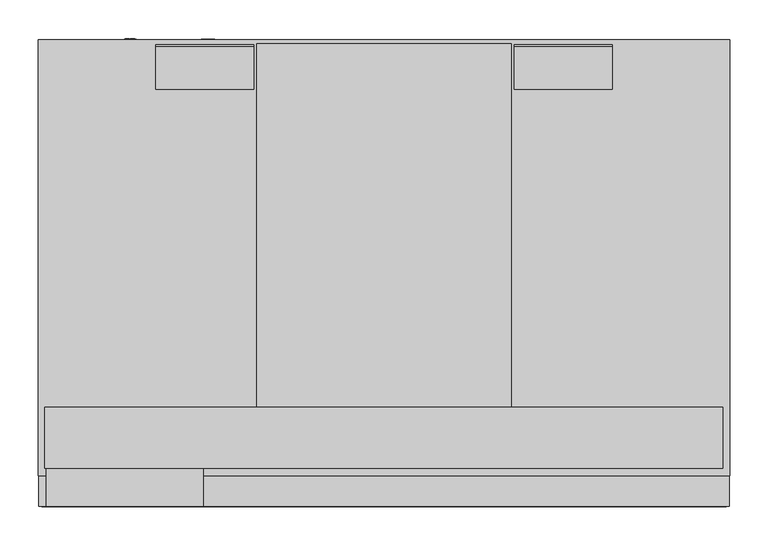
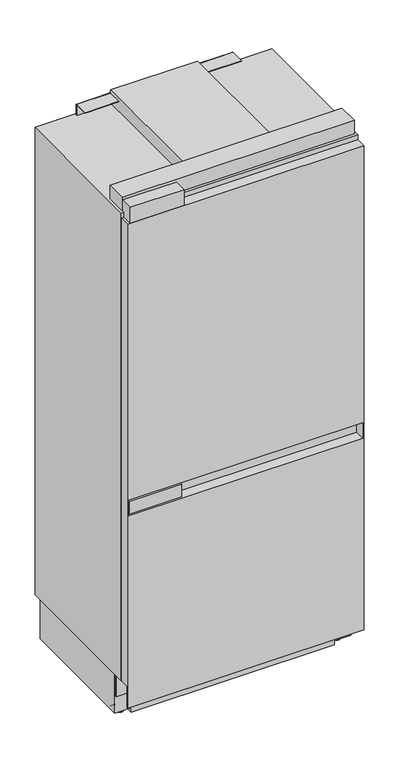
"""IFC4 building model written with IfcOpenShell, lengths in millimetres: proxy geometry, 12866720_GB_KFMC3844_L : 38384410_GB_12866720_KFMC3844_L."""

from ifc_helpers import new_model, si_unit, point, frame, frame_2d, origin, place, context, project, spatial, polyline, circle_curve, trimmed, segment, composite_curve, outline, extrude, faceted_brep, source, transform, mapped, element, save
from ifc_brep_helpers import plane_surface, cylinder_surface, advanced_brep


def specialty_equipment_c1e7b618(model_context):
    return source(origin(), model_context, "Body", "SolidModel", [
        extrude(outline(polyline([(-244.560022, 19.5805006), (-444.560022, 19.5805006), (-444.560022, 59.5250826), (-244.560022, 59.5250826), (-244.560022, 19.5805006)])), frame((0.0, 0.0, 878.4), z_axis=(0.0, 0.0, 1.0), x_axis=(1.0, 0.0, 0.0)), (0.0, 0.0, 1.0), 50.4801375),
        extrude(outline(polyline([(-235.6444763, 19.5805006), (-440.5, 19.5805006), (-440.5, 69.0), (-235.6444763, 69.0), (-235.6444763, 19.5805006)])), frame((0.0, 0.0, 2048.9273907), z_axis=(0.0, 0.0, 1.0), x_axis=(1.0, 0.0, 0.0)), (0.0, 0.0, 1.0), 63.9078998),
        faceted_brep([(450.5, 19.5805006, 2048.9273907), (450.5, 19.5805006, 100.0958717), (450.5, 22.474204, 100.0958717), (450.5, 22.474204, 187.4499998), (450.5, 95.0, 187.4499998), (450.5, 95.0, 100.0958717), (450.5, 99.0001378, 100.0958717), (450.5, 99.0001378, 2048.9273907), (-450.5, 19.5805006, 2048.9273907), (-450.5, 99.0001378, 2048.9273907), (-450.5, 99.0001378, 100.0958717), (-450.5, 95.0, 100.0958717), (-450.5, 95.0, 187.4499998), (-450.5, 22.474204, 187.4499998), (-450.5, 22.474204, 100.0958717), (-450.5, 19.5805006, 100.0958717), (-446.5, 19.5805006, 934.8801375), (446.5, 19.5805006, 934.8801375), (446.5, 19.5805006, 872.4), (-446.5, 19.5805006, 872.4), (446.5, 93.7083842, 934.8801375), (-446.5, 93.7083842, 934.8801375), (-446.5, 93.7083842, 872.4), (446.5, 93.7083842, 872.4)], [[[0, 1, 2, 3, 4, 5, 6, 7]], [[8, 9, 10, 11, 12, 13, 14, 15]], [[1, 0, 8, 15], [16, 17, 18, 19]], [[1, 15, 14, 2]], [[10, 6, 5, 11]], [[7, 6, 10, 9]], [[0, 7, 9, 8]], [[13, 3, 2, 14]], [[4, 12, 11, 5]], [[3, 13, 12, 4]], [[20, 21, 22, 23]], [[21, 20, 17, 16]], [[22, 21, 16, 19]], [[23, 22, 19, 18]], [[20, 23, 18, 17]]]),
        extrude(outline(composite_curve([segment(trimmed(circle_curve(frame_2d((619.3046941, 2111.8999939)), 2.5), [point((619.3046941, 2114.3999939))], [point((621.8046941, 2111.8999939))], False, "CARTESIAN"), True, "CONTINUOUS"), segment(polyline([(621.8046941, 2111.8999939), (621.8046941, 2068.8999998), (619.3046941, 2068.8999998), (619.3046941, 2112.2000427), (563.7854458, 2112.2000427), (563.7854458, 2114.3999939), (619.3046941, 2114.3999939)]), True, "CONTINUOUS")], self_intersect=False)), frame((170.0666274, 0.0, 0.0), z_axis=(1.0, 0.0, 0.0), x_axis=(0.0, 1.0, 0.0)), (0.0, 0.0, 1.0), 127.807223),
        extrude(outline(composite_curve([segment(trimmed(circle_curve(frame_2d((619.3046941, 2111.8999939)), 2.5), [point((619.3046941, 2114.3999939))], [point((621.8046941, 2111.8999939))], False, "CARTESIAN"), True, "CONTINUOUS"), segment(polyline([(621.8046941, 2111.8999939), (621.8046941, 2068.8999998), (619.3046941, 2068.8999998), (619.3046941, 2112.2000427), (563.7854458, 2112.2000427), (563.7854458, 2114.3999939), (619.3046941, 2114.3999939)]), True, "CONTINUOUS")], self_intersect=False)), frame((-297.8738504, 0.0, 0.0), z_axis=(1.0, 0.0, 0.0), x_axis=(0.0, 1.0, 0.0)), (0.0, 0.0, 1.0), 127.807223),
        faceted_brep([(451.0, 628.6068181, 2068.8999998), (-451.0, 628.6068181, 2068.8999998), (-451.0, 59.5250826, 2068.8999998), (451.0, 59.5250826, 2068.8999998), (451.0, 628.6068181, 187.4499998), (451.0, 59.5250826, 187.4499998), (-451.0, 59.5250826, 187.4499998), (-451.0, 628.6068181, 187.4499998), (-402.0265198, 59.5250826, 1999.0), (402.0265198, 59.5250826, 1999.0), (402.0265198, 59.5250826, 920.0), (-402.0265198, 59.5250826, 920.0), (-402.0265198, 59.5250826, 777.0), (402.0265198, 59.5250826, 777.0), (402.0265198, 59.5250826, 250.0), (-402.0265198, 59.5250826, 250.0), (402.0265198, 551.4500008, 1999.0), (-402.0265198, 551.4500008, 1999.0), (-402.0265198, 551.4500008, 920.0), (402.0265198, 551.4500008, 920.0), (402.0265198, 535.9500008, 777.0), (-402.0265198, 535.9500008, 777.0), (-402.0265198, 535.9500008, 250.0), (402.0265198, 535.9500008, 250.0)], [[[0, 1, 2, 3]], [[4, 5, 6, 7]], [[0, 3, 5, 4]], [[3, 2, 6, 5], [8, 9, 10, 11], [12, 13, 14, 15]], [[2, 1, 7, 6]], [[1, 0, 4, 7]], [[16, 17, 18, 19]], [[17, 16, 9, 8]], [[18, 17, 8, 11]], [[19, 18, 11, 10]], [[16, 19, 10, 9]], [[20, 21, 22, 23]], [[21, 20, 13, 12]], [[22, 21, 12, 15]], [[23, 22, 15, 14]], [[20, 23, 14, 13]]]),
        advanced_brep(
        [(-449.5, 599.2160102, 187.4499998), (449.5, 599.2160102, 187.4499998), (449.5, 599.2160102, 27.500001), (387.3898346, 599.2160102, 27.500001), (387.3898346, 599.2160102, 10.4), (-387.3898346, 599.2160102, 10.4), (-387.3898346, 599.2160102, 27.500001), (-449.5, 599.2160102, 27.500001), (449.5, 104.7548719, 187.4499998), (-449.5, 104.7548719, 187.4499998), (-449.5, 104.7548719, 27.500001), (-387.3898346, 104.7548719, 27.500001), (-387.3898346, 104.7548719, 10.4), (387.3898346, 104.7548719, 10.4), (387.3898346, 104.7548719, 27.500001), (449.5, 104.7548719, 27.500001), (-406.4950732, 165.898232, 25.006546), (-406.4950732, 215.911324, 25.006546), (-406.4950732, 215.7866997, 27.500001), (-406.4950732, 166.0228563, 27.500001), (-406.4950732, 488.6286933, 25.006546), (-406.4950732, 538.6417854, 25.006546), (-406.4950732, 538.517161, 27.500001), (-406.4950732, 488.7533177, 27.500001), (-424.0, 215.911324, 25.006546), (-424.0, 165.898232, 25.006546), (-424.0, 166.0228563, 27.500001), (-424.0, 215.7866997, 27.500001), (-424.0, 538.6417854, 25.006546), (-424.0, 488.6286933, 25.006546), (-424.0, 488.7533177, 27.500001), (-424.0, 538.517161, 27.500001), (424.0, 165.898139, 25.006546), (424.0, 215.911231, 25.006546), (424.0, 215.7866067, 27.500001), (424.0, 166.0227633, 27.500001), (424.0, 488.6286933, 25.006546), (424.0, 538.6417854, 25.006546), (424.0, 538.517161, 27.500001), (424.0, 488.7533177, 27.500001), (406.4950732, 215.911231, 25.006546), (406.4950732, 165.898139, 25.006546), (406.4950732, 166.0227633, 27.500001), (406.4950732, 215.7866067, 27.500001), (406.4950732, 538.6417854, 25.006546), (406.4950732, 488.6286933, 25.006546), (406.4950732, 488.7533177, 27.500001), (406.4950732, 538.517161, 27.500001)],
        [
            (0, 1),
            (1, 2),
            (2, 3),
            (3, 4),
            (4, 5),
            (5, 6),
            (6, 7),
            (7, 0),
            (8, 9),
            (9, 10),
            (10, 11),
            (11, 12),
            (12, 13),
            (13, 14),
            (14, 15),
            (15, 8),
            (0, 9),
            (8, 1),
            (7, 10),
            (4, 13),
            (12, 5),
            (15, 2),
            (16, 17, circle_curve(frame((-406.4950732, 190.904778, 25.006546), z_axis=(1.0, 0.0, 0.0), x_axis=(0.0, 1.0, 0.0)), 25.006546)),
            (17, 18, circle_curve(frame((-406.4950732, 190.904778, 25.006546), z_axis=(1.0, 0.0, 0.0), x_axis=(0.0, 1.0, 0.0)), 25.006546)),
            (18, 19),
            (19, 16, circle_curve(frame((-406.4950732, 190.904778, 25.006546), z_axis=(1.0, 0.0, 0.0), x_axis=(0.0, 1.0, 0.0)), 25.006546)),
            (20, 21, circle_curve(frame((-406.4950732, 513.6352393, 25.006546), z_axis=(1.0, 0.0, 0.0), x_axis=(0.0, 1.0, 0.0)), 25.006546)),
            (21, 22, circle_curve(frame((-406.4950732, 513.6352393, 25.006546), z_axis=(1.0, 0.0, 0.0), x_axis=(0.0, 1.0, 0.0)), 25.006546)),
            (22, 23),
            (23, 20, circle_curve(frame((-406.4950732, 513.6352393, 25.006546), z_axis=(1.0, 0.0, 0.0), x_axis=(0.0, 1.0, 0.0)), 25.006546)),
            (24, 25, circle_curve(frame((-424.0, 190.904778, 25.006546), z_axis=(-1.0, 0.0, 0.0), x_axis=(0.0, 1.0, 0.0)), 25.006546)),
            (25, 26, circle_curve(frame((-424.0, 190.904778, 25.006546), z_axis=(-1.0, 0.0, 0.0), x_axis=(0.0, 1.0, 0.0)), 25.006546)),
            (26, 27),
            (27, 24, circle_curve(frame((-424.0, 190.904778, 25.006546), z_axis=(-1.0, 0.0, 0.0), x_axis=(0.0, 1.0, 0.0)), 25.006546)),
            (28, 29, circle_curve(frame((-424.0, 513.6352393, 25.006546), z_axis=(-1.0, 0.0, 0.0), x_axis=(0.0, 1.0, 0.0)), 25.006546)),
            (29, 30, circle_curve(frame((-424.0, 513.6352393, 25.006546), z_axis=(-1.0, 0.0, 0.0), x_axis=(0.0, 1.0, 0.0)), 25.006546)),
            (30, 31),
            (31, 28, circle_curve(frame((-424.0, 513.6352393, 25.006546), z_axis=(-1.0, 0.0, 0.0), x_axis=(0.0, 1.0, 0.0)), 25.006546)),
            (16, 25),
            (24, 17),
            (20, 29),
            (28, 21),
            (32, 33, circle_curve(frame((424.0, 190.904685, 25.006546), z_axis=(1.0, 0.0, 0.0), x_axis=(0.0, 1.0, 0.0)), 25.006546)),
            (33, 34, circle_curve(frame((424.0, 190.904685, 25.006546), z_axis=(1.0, 0.0, 0.0), x_axis=(0.0, 1.0, 0.0)), 25.006546)),
            (34, 35),
            (35, 32, circle_curve(frame((424.0, 190.904685, 25.006546), z_axis=(1.0, 0.0, 0.0), x_axis=(0.0, 1.0, 0.0)), 25.006546)),
            (36, 37, circle_curve(frame((424.0, 513.6352393, 25.006546), z_axis=(1.0, 0.0, 0.0), x_axis=(0.0, 1.0, 0.0)), 25.006546)),
            (37, 38, circle_curve(frame((424.0, 513.6352393, 25.006546), z_axis=(1.0, 0.0, 0.0), x_axis=(0.0, 1.0, 0.0)), 25.006546)),
            (38, 39),
            (39, 36, circle_curve(frame((424.0, 513.6352393, 25.006546), z_axis=(1.0, 0.0, 0.0), x_axis=(0.0, 1.0, 0.0)), 25.006546)),
            (40, 41, circle_curve(frame((406.4950732, 190.904685, 25.006546), z_axis=(-1.0, 0.0, 0.0), x_axis=(0.0, 1.0, 0.0)), 25.006546)),
            (41, 42, circle_curve(frame((406.4950732, 190.904685, 25.006546), z_axis=(-1.0, 0.0, 0.0), x_axis=(0.0, 1.0, 0.0)), 25.006546)),
            (42, 43),
            (43, 40, circle_curve(frame((406.4950732, 190.904685, 25.006546), z_axis=(-1.0, 0.0, 0.0), x_axis=(0.0, 1.0, 0.0)), 25.006546)),
            (44, 45, circle_curve(frame((406.4950732, 513.6352393, 25.006546), z_axis=(-1.0, 0.0, 0.0), x_axis=(0.0, 1.0, 0.0)), 25.006546)),
            (45, 46, circle_curve(frame((406.4950732, 513.6352393, 25.006546), z_axis=(-1.0, 0.0, 0.0), x_axis=(0.0, 1.0, 0.0)), 25.006546)),
            (46, 47),
            (47, 44, circle_curve(frame((406.4950732, 513.6352393, 25.006546), z_axis=(-1.0, 0.0, 0.0), x_axis=(0.0, 1.0, 0.0)), 25.006546)),
            (32, 41),
            (40, 33),
            (36, 45),
            (44, 37),
            (19, 26),
            (27, 18),
            (23, 30),
            (31, 22),
            (43, 34),
            (35, 42),
            (47, 38),
            (39, 46),
            (11, 6),
            (14, 3),
        ],
        [
            plane_surface(frame((-449.5, 599.2160102, 187.4499998), z_axis=(0.0, 1.0, 0.0), x_axis=(1.0, 0.0, 0.0))),
            plane_surface(frame((-449.5, 104.7548719, 187.4499998), z_axis=(0.0, -1.0, 0.0), x_axis=(-1.0, 0.0, 0.0))),
            plane_surface(frame((449.5, 104.7548719, 187.4499998), z_axis=(0.0, 0.0, 1.0), x_axis=(0.0, 1.0, 0.0))),
            plane_surface(frame((-449.5, 104.7548719, 187.4499998), z_axis=(-1.0, 0.0, 0.0), x_axis=(0.0, 1.0, 0.0))),
            plane_surface(frame((-449.5, 104.7548719, 10.4), z_axis=(0.0, 0.0, -1.0), x_axis=(0.0, 1.0, 0.0))),
            plane_surface(frame((449.5, 104.7548719, 10.4), z_axis=(1.0, 0.0, 0.0), x_axis=(0.0, 1.0, 0.0))),
            plane_surface(frame((-406.4950732, 215.911324, 25.006546), z_axis=(1.0, 0.0, 0.0), x_axis=(0.0, 0.0, 1.0))),
            plane_surface(frame((-424.0, 215.911324, 25.006546), z_axis=(-1.0, 0.0, 0.0), x_axis=(0.0, 0.0, -1.0))),
            cylinder_surface(frame((-424.0, 190.904778, 25.006546), z_axis=(1.0, 0.0, 0.0), x_axis=(0.0, 1.0, 0.0)), 25.006546),
            cylinder_surface(frame((0.0, 513.6352393, 25.006546), z_axis=(1.0, 0.0, 0.0), x_axis=(0.0, 1.0, 0.0)), 25.006546),
            plane_surface(frame((424.0, 215.911231, 25.006546), z_axis=(1.0, 0.0, 0.0), x_axis=(0.0, 0.0, 1.0))),
            plane_surface(frame((406.4950732, 215.911231, 25.006546), z_axis=(-1.0, 0.0, 0.0), x_axis=(0.0, 0.0, -1.0))),
            cylinder_surface(frame((424.0, 190.904685, 25.006546), z_axis=(-1.0, 0.0, 0.0), x_axis=(0.0, 1.0, 0.0)), 25.006546),
            cylinder_surface(frame((0.0, 513.6352393, 25.006546), z_axis=(-1.0, 0.0, 0.0), x_axis=(0.0, 1.0, 0.0)), 25.006546),
            plane_surface(frame((-387.3898346, -429.4357797, 0.0), z_axis=(-1.0, 0.0, 0.0), x_axis=(0.0, 1.0, 0.0))),
            plane_surface(frame((-387.3898346, -429.4357797, 27.500001), z_axis=(0.0, 0.0, -1.0), x_axis=(0.0, 1.0, 0.0))),
            plane_surface(frame((451.0, -429.4357797, 27.500001), z_axis=(0.0, 0.0, -1.0), x_axis=(0.0, 1.0, 0.0))),
            plane_surface(frame((387.3898346, -429.4357797, 27.500001), z_axis=(1.0, 0.0, 0.0), x_axis=(0.0, 1.0, 0.0))),
        ],
        [
            (0, [[1, 2, 3, 4, 5, 6, 7, 8]]),
            (1, [[9, 10, 11, 12, 13, 14, 15, 16]]),
            (2, [[-1, 17, -9, 18]]),
            (3, [[-17, -8, 19, -10]]),
            (4, [[-5, 20, -13, 21]]),
            (5, [[-18, -16, 22, -2]]),
            (6, [[23, 24, 25, 26]]),
            (6, [[27, 28, 29, 30]]),
            (7, [[31, 32, 33, 34]]),
            (7, [[35, 36, 37, 38]]),
            (8, [[-23, 39, -31, 40]]),
            (9, [[-27, 41, -35, 42]]),
            (10, [[43, 44, 45, 46]]),
            (10, [[47, 48, 49, 50]]),
            (11, [[51, 52, 53, 54]]),
            (11, [[55, 56, 57, 58]]),
            (12, [[-43, 59, -51, 60]]),
            (13, [[-47, 61, -55, 62]]),
            (8, [[-39, -26, 63, -32]]),
            (8, [[-40, -34, 64, -24]]),
            (9, [[-41, -30, 65, -36]]),
            (9, [[-42, -38, 66, -28]]),
            (12, [[-60, -54, 67, -44]]),
            (12, [[-59, -46, 68, -52]]),
            (13, [[-62, -58, 69, -48]]),
            (13, [[-61, -50, 70, -56]]),
            (14, [[71, -6, -21, -12]]),
            (15, [[-71, -11, -19, -7], [-25, -64, -33, -63], [-29, -66, -37, -65]]),
            (16, [[72, -3, -22, -15], [-45, -67, -53, -68], [-49, -69, -57, -70]]),
            (17, [[-72, -14, -20, -4]]),
        ],
    ),
        extrude(outline(composite_curve([segment(trimmed(circle_curve(frame_2d((-413.6, 136.7)), 15.0), [point((-428.6, 136.7))], [point((-398.6, 136.7))], False, "CARTESIAN"), True, "CONTINUOUS"), segment(trimmed(circle_curve(frame_2d((-413.6, 136.7)), 15.0), [point((-398.6, 136.7))], [point((-428.6, 136.7))], False, "CARTESIAN"), True, "CONTINUOUS")], self_intersect=False)), frame((0.0, 0.0, 10.4), z_axis=(0.0, 0.0, 1.0), x_axis=(1.0, 0.0, 0.0)), (0.0, 0.0, 1.0), 3.4999939),
        extrude(outline(composite_curve([segment(trimmed(circle_curve(frame_2d((413.6, 136.7)), 15.0), [point((398.6, 136.7))], [point((428.6, 136.7))], False, "CARTESIAN"), True, "CONTINUOUS"), segment(trimmed(circle_curve(frame_2d((413.6, 136.7)), 15.0), [point((428.6, 136.7))], [point((398.6, 136.7))], False, "CARTESIAN"), True, "CONTINUOUS")], self_intersect=False)), frame((0.0, 0.0, 10.4), z_axis=(0.0, 0.0, 1.0), x_axis=(1.0, 0.0, 0.0)), (0.0, 0.0, 1.0), 3.4999939),
        extrude(outline(composite_curve([segment(trimmed(circle_curve(frame_2d((413.6, 136.7)), 10.0), [point((403.6, 136.7))], [point((423.6, 136.7))], False, "CARTESIAN"), True, "CONTINUOUS"), segment(trimmed(circle_curve(frame_2d((413.6, 136.7)), 10.0), [point((423.6, 136.7))], [point((403.6, 136.7))], False, "CARTESIAN"), True, "CONTINUOUS")], self_intersect=False)), frame((0.0, 0.0, 13.8999939), z_axis=(0.0, 0.0, 1.0), x_axis=(1.0, 0.0, 0.0)), (0.0, 0.0, 1.0), 13.6000071),
        extrude(outline(composite_curve([segment(trimmed(circle_curve(frame_2d((-413.6, 136.7)), 10.0), [point((-423.6, 136.7))], [point((-403.6, 136.7))], False, "CARTESIAN"), True, "CONTINUOUS"), segment(trimmed(circle_curve(frame_2d((-413.6, 136.7)), 10.0), [point((-403.6, 136.7))], [point((-423.6, 136.7))], False, "CARTESIAN"), True, "CONTINUOUS")], self_intersect=False)), frame((0.0, 0.0, 13.8999939), z_axis=(0.0, 0.0, 1.0), x_axis=(1.0, 0.0, 0.0)), (0.0, 0.0, 1.0), 13.6000071),
        faceted_brep([(166.0, 623.4547186, 2122.8999939), (-166.0, 623.4547186, 2122.8999939), (-166.0, 149.0, 2122.8999939), (166.0, 149.0, 2122.8999939), (-166.0, 623.4547186, 2068.8999998), (166.0, 623.4547186, 2068.8999998), (166.0, 149.0, 2068.8999998), (442.1341127, 149.0, 2068.8999998), (442.1341127, 69.0, 2068.8999998), (-442.7652816, 69.0, 2068.8999998), (-442.7652816, 149.0, 2068.8999998), (-166.0, 149.0, 2068.8999998), (442.1341127, 69.0, 2124.5509637), (442.1341127, 149.0, 2124.5509637), (-442.7652816, 69.0, 2124.5509637), (-442.7652816, 149.0, 2124.5509637)], [[[0, 1, 2, 3]], [[4, 5, 6, 7, 8, 9, 10, 11]], [[5, 0, 3, 6]], [[1, 0, 5, 4]], [[1, 4, 11, 2]], [[12, 8, 7, 13]], [[14, 15, 10, 9]], [[8, 12, 14, 9]], [[13, 7, 6, 3, 2, 11, 10, 15]], [[12, 13, 15, 14]]]),
        extrude(outline(composite_curve([segment(trimmed(circle_curve(frame_2d((68.8909912, -331.0)), 8.0), [point((68.8909912, -339.0))], [point((68.8909912, -323.0))], False, "CARTESIAN"), True, "CONTINUOUS"), segment(trimmed(circle_curve(frame_2d((68.8909912, -331.0)), 8.0), [point((68.8909912, -323.0))], [point((68.8909912, -339.0))], False, "CARTESIAN"), True, "CONTINUOUS")], self_intersect=False)), frame((0.0, 599.2160102, 0.0), z_axis=(0.0, 1.0, 0.0), x_axis=(0.0, 0.0, 1.0)), (0.0, 0.0, 1.0), 30.0),
        extrude(outline(polyline([(64.7404068, -325.0981918), (72.7769116, -325.0981918), (72.7769116, -330.8744296), (71.7723485, -330.8744296), (71.7723485, -326.1027549), (69.3865111, -326.1027549), (69.3865111, -330.6232888), (68.381948, -330.6232888), (68.381948, -326.1027549), (65.7449699, -326.1027549), (65.7449699, -331.0), (64.7404068, -331.0), (64.7404068, -325.0981918)])), frame((0.0, 629.2160102, 0.0), z_axis=(0.0, 1.0, 0.0), x_axis=(0.0, 0.0, 1.0)), (0.0, 0.0, 1.0), 1.0),
        extrude(outline(polyline([(64.7404068, -332.5068447), (72.7769116, -332.5068447), (72.7769116, -333.5114078), (65.7449699, -333.5114078), (65.7449699, -337.5296602), (64.7404068, -337.5296602), (64.7404068, -332.5068447)])), frame((0.0, 629.2160102, 0.0), z_axis=(0.0, 1.0, 0.0), x_axis=(0.0, 0.0, 1.0)), (0.0, 0.0, 1.0), 1.0),
        extrude(outline(composite_curve([segment(trimmed(circle_curve(frame_2d((38.8909912, -229.0)), 8.0), [point((38.8909912, -237.0))], [point((38.8909912, -221.0))], False, "CARTESIAN"), True, "CONTINUOUS"), segment(trimmed(circle_curve(frame_2d((38.8909912, -229.0)), 8.0), [point((38.8909912, -221.0))], [point((38.8909912, -237.0))], False, "CARTESIAN"), True, "CONTINUOUS")], self_intersect=False)), frame((0.0, 599.2160102, 0.0), z_axis=(0.0, 1.0, 0.0), x_axis=(0.0, 0.0, 1.0)), (0.0, 0.0, 1.0), 30.0),
        extrude(outline(polyline([(35.5144425, -229.9875487), (43.5509473, -227.795953), (43.5509473, -228.8319087), (38.2691429, -230.1033089), (36.6386899, -230.4957164), (38.0807873, -230.9155923), (43.5509473, -232.5087666), (43.5509473, -234.001877), (39.5856699, -235.159479), (36.6386899, -236.0208134), (38.222054, -236.4014486), (43.5509473, -237.684621), (43.5509473, -238.7205767), (35.5144425, -236.527019), (35.5144425, -235.4537846), (41.7144804, -233.527064), (42.5797389, -233.2582649), (41.5378971, -232.9561111), (35.5144425, -231.2000877), (35.5144425, -229.9875487)])), frame((0.0, 628.6068181, 0.0), z_axis=(0.0, 1.0, 0.0), x_axis=(0.0, 0.0, 1.0)), (0.0, 0.0, 1.0), 1.0),
        extrude(outline(polyline([(35.5144425, -221.1407225), (43.5509473, -221.1407225), (43.5509473, -222.1452856), (39.6170625, -222.1452856), (43.5509473, -226.2655639), (43.5509473, -227.6703826), (40.2468765, -224.2113109), (35.5144425, -227.795953), (35.5144425, -226.5677177), (39.5680116, -223.4990913), (38.2769911, -222.1452856), (35.5144425, -222.1452856), (35.5144425, -221.1407225)])), frame((0.0, 628.6068181, 0.0), z_axis=(0.0, 1.0, 0.0), x_axis=(0.0, 0.0, 1.0)), (0.0, 0.0, 1.0), 1.0),
    ])


if __name__ == "__main__":
    model = new_model("IFC4")
    model_context = context("Model", 3, world=origin())
    ifc_project = project(units=[si_unit("LENGTHUNIT", "METRE", prefix="MILLI")], contexts=[model_context])
    site = spatial("IfcSite", under=ifc_project)
    building = spatial("IfcBuilding", under=site)
    placement = place(None, origin())
    specialty_equipment_shape = specialty_equipment_c1e7b618(model_context)
    element("IfcBuildingElementProxy", 1, Name="12866720_GB_KFMC3844_L : 38384410_GB_12866720_KFMC3844_L", ObjectType="12866720_GB_KFMC3844_L : 38384410_GB_12866720_KFMC3844_L", at=placement, inside=building, context=model_context, shape_type="MappedRepresentation", body=[
        mapped(specialty_equipment_shape, transform((0.0, 0.0, 0.0), x_axis=(1.0, 0.0, 0.0), y_axis=(0.0, 1.0, 0.0), z_axis=(0.0, 0.0, 1.0))),
    ])
    save(model, "model.ifc")
